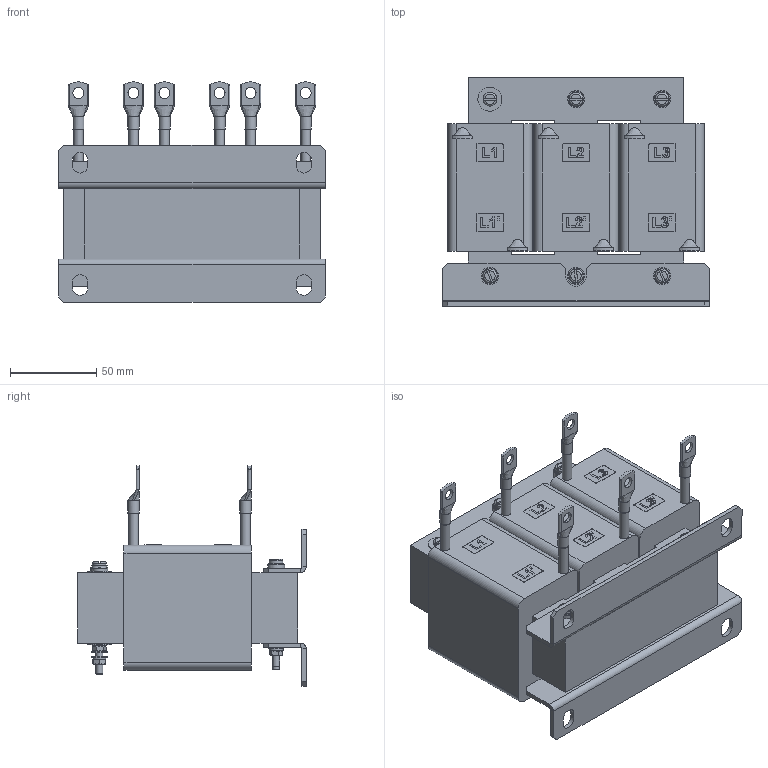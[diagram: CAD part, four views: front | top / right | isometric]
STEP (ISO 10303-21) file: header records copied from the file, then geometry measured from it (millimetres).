
FILE_DESCRIPTION(/* description */ ('raw material description'),/* implementation_level */ '2;1');
FILE_NAME(/* name */ 'P:\Construction\Filter_Marketing\RWK\RWK3044_RWK3062\RWK3044\RWK3044-35-92-E0XXX.stp',/* time_stamp */ '2018-12-10T10:20:12+01:00',/* author */ ('erika.jenzer'),/* organization */ ('Schaffner EMV AG'),/* preprocessor_version */ 'ST-DEVELOPER v16.5',/* originating_system */ 'Autodesk Inventor 2017',/* authorisation */ '');
FILE_SCHEMA (('AUTOMOTIVE_DESIGN { 1 0 10303 214 3 1 1 }'));
Length unit declared in the file: millimetre
Products named in the file (1): RWK3044-35-92-E0XXX
Bounding box: 155 x 132.7 x 127.97 mm (x, y, z)
Volume: 1099721.9 mm3; surface area: 130855.7 mm2
Topology: 1 solids, 19 shells, 726 faces, 1759 edges, 1158 vertices
Faces by surface type: plane 425, cylinder 182, bspline 74, cone 33, torus 12
Full cylindrical faces by diameter (mm): 3.5 x6, 4 x19, 4.1 x6, 4.3 x14, 5.2 x5, 5.3 x3, 5.5 x10, 6.4 x6, 6.5 x6, 8 x7, 9 x12, 10 x5, 13 x1, 14 x2
Entity records: 21698 total; most frequent: CARTESIAN_POINT 5579, ORIENTED_EDGE 3182, DIRECTION 3164, EDGE_CURVE 1591, AXIS2_PLACEMENT_3D 1152, VERTEX_POINT 1125, EDGE_LOOP 1008, LINE 860
